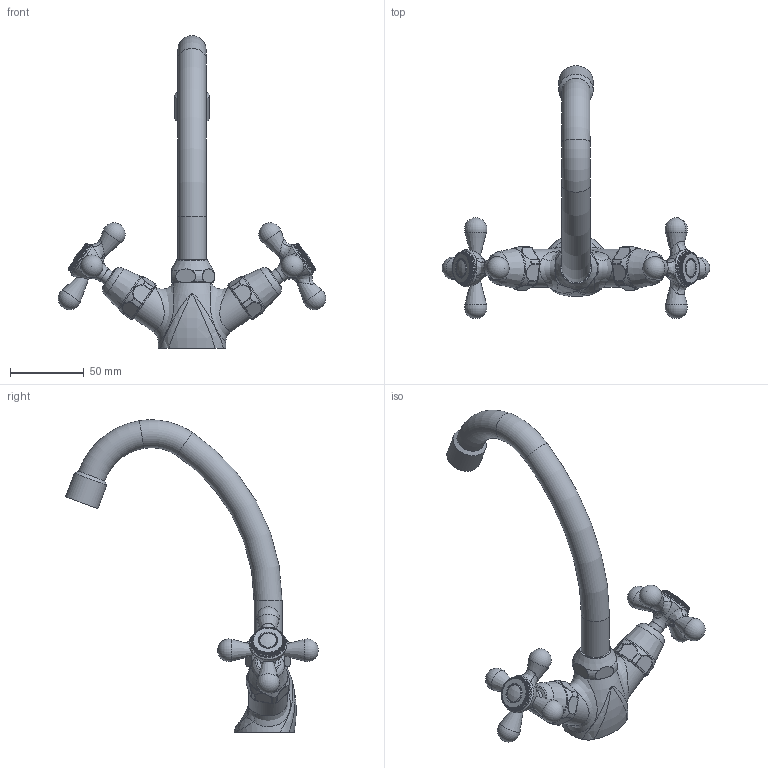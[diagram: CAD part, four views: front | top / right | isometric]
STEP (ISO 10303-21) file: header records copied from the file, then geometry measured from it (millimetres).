
FILE_DESCRIPTION(('STEP AP242'), '1');
FILE_NAME('17CR250OR', '', ('UNSPECIFIED'), ('UNSPECIFIED'), 'ASCON STEP Converter 1.6', 'ASCON Math Kernel', '');
FILE_SCHEMA(('AP242_MANAGED_MODEL_BASED_3D_ENGINEERING_MIM_LF { 1 0 10303 442 1 1 4 }'));
Length unit declared in the file: millimetre
Assembly tree (2 placements, depth 2):
  (unnamed)
    (unnamed)
    (unnamed)
Bounding box: 181.29 x 171.31 x 211.75 mm (x, y, z)
Volume: 213933.7 mm3; surface area: 43248.4 mm2
Topology: 2 solids, 2 shells, 4976 faces, 11639 edges, 6663 vertices
Faces by surface type: bspline 2517, cylinder 1396, torus 515, plane 484, sphere 50, cone 14
Full cylindrical faces by diameter (mm): 10.197 x2, 12.398 x2, 18 x1, 19 x1, 23.047 x2, 23.346 x1, 25.857 x2
Entity records: 265972 total; most frequent: CARTESIAN_POINT 136806, ORIENTED_EDGE 23110, DIRECTION 11946, EDGE_CURVE 11555, B_SPLINE_CURVE_WITH_KNOTS 7109, VERTEX_POINT 6644, AXIS2_PLACEMENT_3D 5040, EDGE_LOOP 5035
